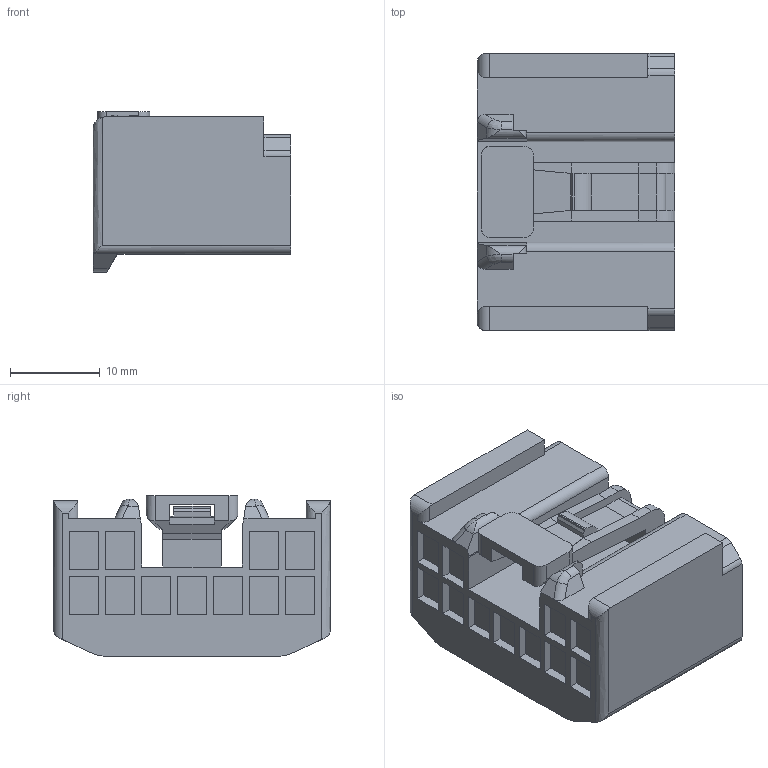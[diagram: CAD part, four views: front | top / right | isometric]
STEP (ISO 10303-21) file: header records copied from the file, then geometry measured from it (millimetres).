
FILE_DESCRIPTION(('CATIA V5 STEP Exchange'),'2;1');
FILE_NAME('N:\C-DAM_MyDesk\ENV\11093U\1設\6248-5275.stp','2013-02-28T04:40:26+00:00',('none'),('none'),'CATIA Version 5 Release 20 SP 4 (IN-10)','CATIA V5 STEP AP203','none');
FILE_SCHEMA(('CONFIG_CONTROL_DESIGN'));
Length unit declared in the file: millimetre
Products named in the file (1): 6248-5275
Bounding box: 22 x 30.8 x 17.9 mm (x, y, z)
Volume: 8178.4 mm3; surface area: 3909.9 mm2
Topology: 1 solids, 1 shells, 224 faces, 598 edges, 396 vertices
Faces by surface type: plane 184, cylinder 37, bspline 3
Entity records: 6871 total; most frequent: CARTESIAN_POINT 1517, ORIENTED_EDGE 1196, DIRECTION 899, EDGE_CURVE 598, VECTOR 505, LINE 505, VERTEX_POINT 396, EDGE_LOOP 246
